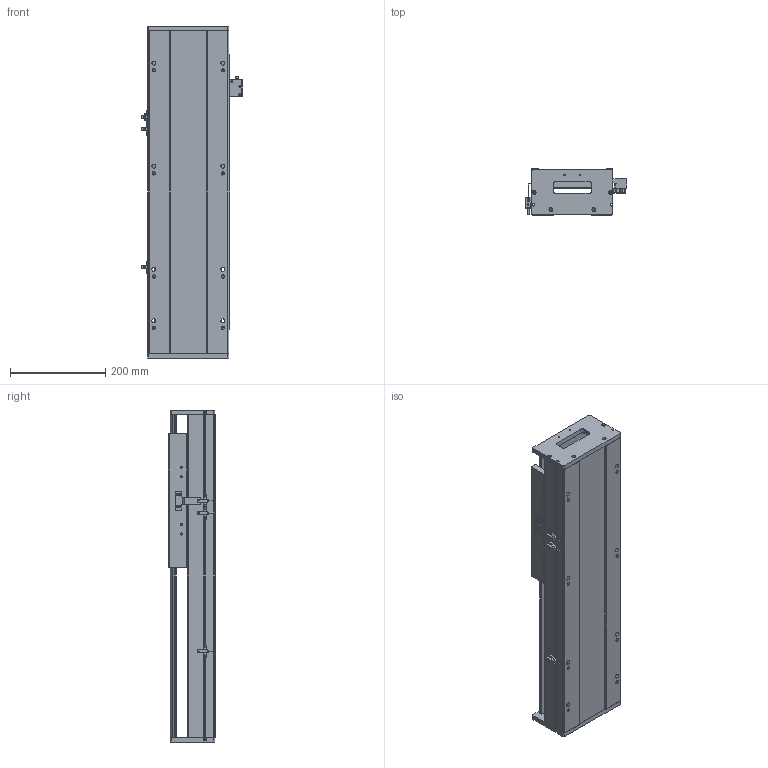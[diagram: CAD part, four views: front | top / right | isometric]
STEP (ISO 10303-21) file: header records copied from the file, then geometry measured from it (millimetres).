
FILE_DESCRIPTION (( 'STEP AP203' ), '1' );
FILE_NAME ('SKR17S-C2-S316（简）.STEP', '2022-09-29T07:06:58', ( '' ), ( '' ), 'SwSTEP 2.0', 'SolidWorks 2018', '' );
FILE_SCHEMA (( 'CONFIG_CONTROL_DESIGN' ));
Length unit declared in the file: millimetre
Products named in the file (8): EE-SX672; SKR17耜啣; SKR17S-C2-S316（简）; SIKO棠掑; 棠掑假蚾輸; 感应片（SKR12S-14S-17S）; SKR17滑台-280L（简）; SKR17菁釱-C2-S316(潠)
Assembly tree (10 placements, depth 2):
  SKR17S-C2-S316（简）
    SKR17菁釱-C2-S316(潠)
    SIKO棠掑
    EE-SX672  x3
    SKR17耜啣  x2
    棠掑假蚾輸
    SKR17滑台-280L（简）
    感应片（SKR12S-14S-17S）
Bounding box: 212.7 x 97 x 696 mm (x, y, z)
Volume: 6161149 mm3; surface area: 832389.8 mm2
Topology: 11 solids, 11 shells, 1000 faces, 2755 edges, 1769 vertices
Faces by surface type: cylinder 451, plane 439, cone 110
Entity records: 28963 total; most frequent: CARTESIAN_POINT 6783, ORIENTED_EDGE 4538, DIRECTION 4377, EDGE_CURVE 2269, AXIS2_PLACEMENT_3D 1547, VERTEX_POINT 1473, LINE 1283, VECTOR 1283
